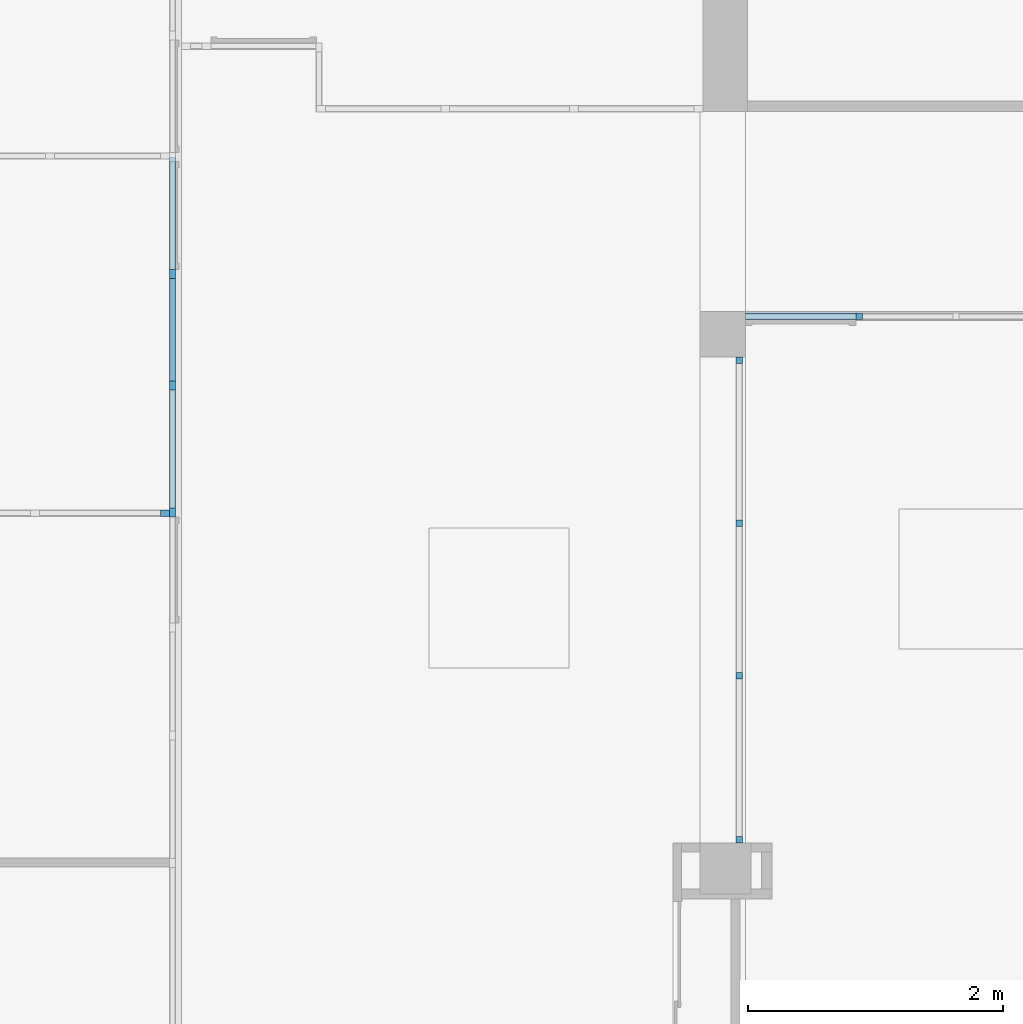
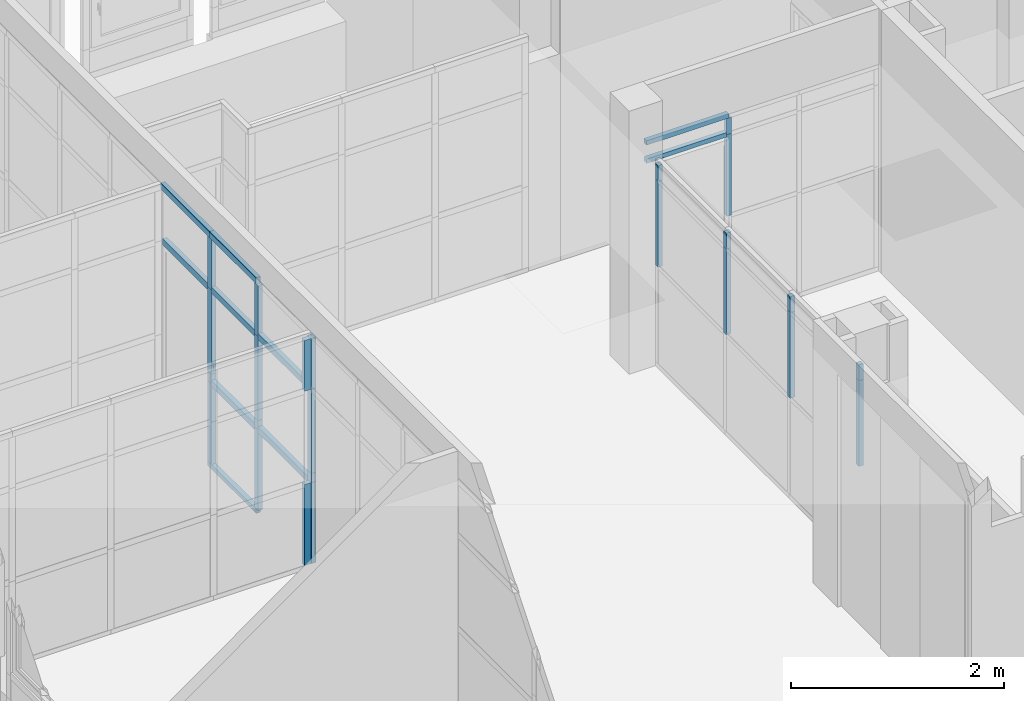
# One storey, part 17 of 97: 34 members, 4 elements without a shape of their own.
"""IFC4 building model written with IfcOpenShell, lengths in metres."""

import ifcopenshell
import ifcopenshell.guid

model = None  # the IFC model being written
_history = None  # IfcOwnerHistory: only IFC2X3 demands one
_inside = {}  # id of a spatial element -> (the spatial element, [elements in it])
_under = {}  # id of a project, library or spatial element -> (it, [spatial elements below it])
_declared = {}  # id of a project -> (the project, [libraries it declares])
_typed = {}  # id of a type object -> (the type object, [elements of that type])
_made_of = {}  # id of a material, layer set ... -> (it, [elements and type objects made of it])


def new_model(schema):
    """Start an empty IFC model of exactly this schema.

    Asked for "IFC4X3", IfcOpenShell would pick the latest addendum, in which some entities
    have other attributes; the version numbers below select the first issue.
    IFC2X3 requires an IfcOwnerHistory on every rooted entity: one is made here for all.
    """
    global model, _history
    if schema == "IFC4X3":
        model = ifcopenshell.file(schema_version=(4, 3, 0, 0))
    else:
        model = ifcopenshell.file(schema=schema)
    _inside.clear()
    _under.clear()
    _declared.clear()
    _typed.clear()
    _made_of.clear()
    _history = None
    if model.schema == "IFC2X3":
        org = make("IfcOrganization", Name="unknown")
        user = make(
            "IfcPersonAndOrganization",
            ThePerson=make("IfcPerson", FamilyName="unknown"),
            TheOrganization=org,
        )
        app = make(
            "IfcApplication",
            ApplicationDeveloper=org,
            Version="unknown",
            ApplicationFullName="unknown",
            ApplicationIdentifier="unknown",
        )
        _history = make(
            "IfcOwnerHistory",
            OwningUser=user,
            OwningApplication=app,
            ChangeAction="ADDED",
            CreationDate=0,
        )
    return model


def make(cls, **values):
    """One entity of the class cls with the attributes given. An attribute that is None is left unset."""
    return model.create_entity(
        cls, **{name: value for name, value in values.items() if value is not None}
    )


def entity(cls, *values):
    """Any entity or typed value of the class cls, its attributes in the order of the schema. None: left unset."""
    e = model.create_entity(cls)
    for i, value in enumerate(values):
        if value is not None:
            e[i] = value
    return e


def rooted(cls, **values):
    """An entity with a GlobalId (a new one), such as an element, a storey or a relation."""
    return make(cls, GlobalId=ifcopenshell.guid.new(), OwnerHistory=_history, **values)


def si_unit(unit_type, name, prefix=None):
    """IfcSIUnit, for example si_unit("LENGTHUNIT", "METRE", prefix="MILLI")."""
    return make("IfcSIUnit", UnitType=unit_type, Prefix=prefix, Name=name)


def converted_unit(unit_type, name, factor, base, dimensions=None, offset=None):
    """IfcConversionBasedUnit, such as the inch: factor (a typed value) times the base unit."""
    return make(
        "IfcConversionBasedUnit"
        if offset is None
        else "IfcConversionBasedUnitWithOffset",
        ConversionOffset=offset,
        Dimensions=None
        if dimensions is None
        else entity("IfcDimensionalExponents", *dimensions),
        UnitType=unit_type,
        Name=name,
        ConversionFactor=make(
            "IfcMeasureWithUnit", ValueComponent=factor, UnitComponent=base
        ),
    )


def derived_unit(unit_type, elements):
    """IfcDerivedUnit: a product of units, each with its exponent."""
    return make(
        "IfcDerivedUnit",
        Elements=[
            make("IfcDerivedUnitElement", Unit=unit, Exponent=power)
            for unit, power in elements
        ],
        UnitType=unit_type,
    )


def assignment(units):
    """IfcUnitAssignment: the units of a project."""
    return None if units is None else make("IfcUnitAssignment", Units=units)


def point(xyz):
    """IfcCartesianPoint."""
    return None if xyz is None else make("IfcCartesianPoint", Coordinates=xyz)


def direction(xyz):
    """IfcDirection."""
    return None if xyz is None else make("IfcDirection", DirectionRatios=xyz)


def frame(location, z_axis=None, x_axis=None):
    """IfcAxis2Placement3D, a coordinate frame: its origin and axes. An axis left out is left unset."""
    return make(
        "IfcAxis2Placement3D",
        Location=point(location),
        Axis=direction(z_axis),
        RefDirection=direction(x_axis),
    )


def origin():
    """The frame at (0, 0, 0) with its axes left unset."""
    return frame((0.0, 0.0, 0.0))


def place(relative_to, where):
    """IfcLocalPlacement: puts the frame where relative to a parent placement (None: the world)."""
    return make(
        "IfcLocalPlacement", PlacementRelTo=relative_to, RelativePlacement=where
    )


def context(
    kind, dimensions, precision=None, world=None, true_north=None, identifier=None
):
    """IfcGeometricRepresentationContext, for example the 3D "Model" context."""
    return make(
        "IfcGeometricRepresentationContext",
        ContextIdentifier=identifier,
        ContextType=kind,
        CoordinateSpaceDimension=dimensions,
        Precision=precision,
        WorldCoordinateSystem=world,
        TrueNorth=true_north,
    )


def subcontext(parent, identifier, kind, view, scale=None):
    """IfcGeometricRepresentationSubContext, for example "Body" below "Model"."""
    return make(
        "IfcGeometricRepresentationSubContext",
        ContextIdentifier=identifier,
        ContextType=kind,
        ParentContext=parent,
        TargetScale=scale,
        TargetView=view,
    )


def project(units=None, contexts=None):
    """IfcProject with its units and contexts."""
    return rooted(
        "IfcProject",
        Name="project",
        RepresentationContexts=contexts,
        UnitsInContext=assignment(units),
    )


def spatial(cls, under=None, at=None, **own):
    """A site, building, storey or space (cls), placed at a placement, below another one or the project."""
    s = rooted(cls, ObjectPlacement=at, **own)
    if under is not None:
        _under.setdefault(under.id(), (under, []))[1].append(s)
    return s


def point_list(points):
    """IfcCartesianPointList2D or 3D."""
    cls = (
        "IfcCartesianPointList2D" if len(points[0]) == 2 else "IfcCartesianPointList3D"
    )
    return make(cls, CoordList=points)


def indexed_curve(points, segments=None, self_intersect=None):
    """IfcIndexedPolyCurve: lines and arcs through numbered points (the first is 1)."""
    return make(
        "IfcIndexedPolyCurve",
        Points=point_list(points),
        Segments=segments,
        SelfIntersect=self_intersect,
    )


def outline(outer, holes=None, kind="AREA"):
    """IfcArbitraryClosedProfileDef: a profile drawn as a closed curve; with holes, ...WithVoids."""
    if holes is None:
        return make("IfcArbitraryClosedProfileDef", ProfileType=kind, OuterCurve=outer)
    return make(
        "IfcArbitraryProfileDefWithVoids",
        ProfileType=kind,
        OuterCurve=outer,
        InnerCurves=holes,
    )


def extrude(swept, where, along, depth):
    """IfcExtrudedAreaSolid: the profile swept, set in the frame where, extruded along a direction by depth."""
    return make(
        "IfcExtrudedAreaSolid",
        SweptArea=swept,
        Position=where,
        ExtrudedDirection=direction(along),
        Depth=depth,
    )


def shape(context_of_items, identifier, shape_type, items):
    """IfcShapeRepresentation: the items that make up one representation, for example the "Body"."""
    return make(
        "IfcShapeRepresentation",
        ContextOfItems=context_of_items,
        RepresentationIdentifier=identifier,
        RepresentationType=shape_type,
        Items=items,
    )


def source(mapping_origin, context_of_items, identifier, shape_type, items):
    """IfcRepresentationMap: a shape defined once, which mapped items show again and again."""
    return make(
        "IfcRepresentationMap",
        MappingOrigin=mapping_origin,
        MappedRepresentation=shape(context_of_items, identifier, shape_type, items),
    )


def transform(
    local_origin,
    x_axis=None,
    y_axis=None,
    z_axis=None,
    scale=None,
    scale2=None,
    scale3=None,
    uniform=True,
):
    """IfcCartesianTransformationOperator3D, or its non-uniform kind. x_axis, y_axis, z_axis: its Axis1, 2, 3."""
    if uniform:
        return make(
            "IfcCartesianTransformationOperator3D",
            Axis1=direction(x_axis),
            Axis2=direction(y_axis),
            LocalOrigin=point(local_origin),
            Scale=scale,
            Axis3=direction(z_axis),
        )
    return make(
        "IfcCartesianTransformationOperator3DnonUniform",
        Axis1=direction(x_axis),
        Axis2=direction(y_axis),
        LocalOrigin=point(local_origin),
        Scale=scale,
        Axis3=direction(z_axis),
        Scale2=scale2,
        Scale3=scale3,
    )


def mapped(mapping_source, mapping_target):
    """IfcMappedItem: shows the shape of a source again, moved by a transform."""
    return make(
        "IfcMappedItem", MappingSource=mapping_source, MappingTarget=mapping_target
    )


def material(Name=None, Category=None):
    """IfcMaterial."""
    return make("IfcMaterial", Name=Name, Category=Category)


def made_of(thing, what):
    """Note that an element or type object is made of a material, layer set ...; save() writes the relation."""
    if what is not None:
        _made_of.setdefault(what.id(), (what, []))[1].append(thing)
    return thing


def type_object(cls, material=None, **own):
    """A type object (cls), such as IfcWallType, which elements share."""
    return made_of(rooted(cls, **own), material)


def type_shapes(of_type, sources):
    """Give a type object the sources (RepresentationMaps) that its elements show as mapped items."""
    of_type.RepresentationMaps = sources


def element(
    cls,
    number,
    at=None,
    inside=None,
    cuts=None,
    type_object=None,
    material=None,
    context=None,
    identifier="Body",
    shape_type=None,
    held_by="IfcProductDefinitionShape",
    body=None,
    shapes=None,
    **own,
):
    """One element of the class cls, such as IfcWall. Its Tag is "e" and its number.

    at: its placement. inside: the storey or other place that contains it. cuts: it is an
    opening in that element (IfcRelVoidsElement). A single representation is given by context,
    identifier, shape_type and body (its items); several are given by shapes. held_by: the class
    of the entity that holds the representations. save() writes the other relations.
    """
    e = rooted(cls, Tag="e%d" % number, ObjectPlacement=at, **own)
    if body is not None:
        shapes = [shape(context, identifier, shape_type, body)]
    if shapes is not None:
        e.Representation = make(held_by, Representations=shapes)
    if inside is not None:
        _inside.setdefault(inside.id(), (inside, []))[1].append(e)
    if cuts is not None:
        rooted(
            "IfcRelVoidsElement", RelatingBuildingElement=cuts, RelatedOpeningElement=e
        )
    if type_object is not None:
        _typed.setdefault(type_object.id(), (type_object, []))[1].append(e)
    return made_of(e, material)


def aggregate(whole, parts):
    """IfcRelAggregates: a whole, such as a stair, and the parts it consists of."""
    return rooted("IfcRelAggregates", RelatingObject=whole, RelatedObjects=parts)


def save(model, path):
    """Write the relations noted so far, then the file.

    IfcRelAggregates (storeys below a building ...), IfcRelContainedInSpatialStructure (elements
    in a storey), IfcRelDefinesByType, IfcRelAssociatesMaterial and IfcRelDeclares: one each for
    every whole, place, type object, material and project.
    """
    for whole, parts in _under.values():
        aggregate(whole, parts)
    for where, things in _inside.values():
        rooted(
            "IfcRelContainedInSpatialStructure",
            RelatedElements=things,
            RelatingStructure=where,
        )
    for kind, things in _typed.values():
        rooted("IfcRelDefinesByType", RelatedObjects=things, RelatingType=kind)
    for what, things in _made_of.values():
        rooted("IfcRelAssociatesMaterial", RelatedObjects=things, RelatingMaterial=what)
    for by, libraries in _declared.values():
        rooted("IfcRelDeclares", RelatingContext=by, RelatedDefinitions=libraries)
    model.write(path)


model = new_model("IFC4")

# Units and contexts
model_context = context("Model", 3, precision=1e-05, world=origin(), true_north=direction((6.12303176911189e-17, 1.0)))
body_context = subcontext(model_context, "Body", "Model", "MODEL_VIEW")
ifc_project = project(units=[si_unit("LENGTHUNIT", "METRE"), si_unit("AREAUNIT", "SQUARE_METRE"), si_unit("VOLUMEUNIT", "CUBIC_METRE"), converted_unit("PLANEANGLEUNIT", "DEGREE", entity("IfcRatioMeasure", 0.0174532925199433), si_unit("PLANEANGLEUNIT", "RADIAN"), dimensions=[0, 0, 0, 0, 0, 0, 0]), si_unit("MASSUNIT", "GRAM", prefix="KILO"), derived_unit("MASSDENSITYUNIT", [(si_unit("MASSUNIT", "GRAM", prefix="KILO"), 1), (si_unit("LENGTHUNIT", "METRE"), -3)]), derived_unit("MOMENTOFINERTIAUNIT", [(si_unit("LENGTHUNIT", "METRE"), 4)]), si_unit("TIMEUNIT", "SECOND"), si_unit("FREQUENCYUNIT", "HERTZ"), si_unit("THERMODYNAMICTEMPERATUREUNIT", "DEGREE_CELSIUS"), derived_unit("THERMALTRANSMITTANCEUNIT", [(si_unit("MASSUNIT", "GRAM", prefix="KILO"), 1), (si_unit("THERMODYNAMICTEMPERATUREUNIT", "KELVIN"), -1), (si_unit("TIMEUNIT", "SECOND"), -3)]), derived_unit("VOLUMETRICFLOWRATEUNIT", [(si_unit("LENGTHUNIT", "METRE"), 3), (si_unit("TIMEUNIT", "SECOND"), -1)]), si_unit("ELECTRICCURRENTUNIT", "AMPERE"), si_unit("ELECTRICVOLTAGEUNIT", "VOLT"), si_unit("POWERUNIT", "WATT"), si_unit("FORCEUNIT", "NEWTON", prefix="KILO"), si_unit("ILLUMINANCEUNIT", "LUX"), si_unit("LUMINOUSFLUXUNIT", "LUMEN"), si_unit("LUMINOUSINTENSITYUNIT", "CANDELA"), derived_unit("USERDEFINED", [(si_unit("MASSUNIT", "GRAM", prefix="KILO"), -1), (si_unit("LENGTHUNIT", "METRE"), -2), (si_unit("TIMEUNIT", "SECOND"), 3), (si_unit("LUMINOUSFLUXUNIT", "LUMEN"), 1)]), derived_unit("LINEARVELOCITYUNIT", [(si_unit("LENGTHUNIT", "METRE"), 1), (si_unit("TIMEUNIT", "SECOND"), -1)]), si_unit("PRESSUREUNIT", "PASCAL"), derived_unit("USERDEFINED", [(si_unit("LENGTHUNIT", "METRE"), -2), (si_unit("MASSUNIT", "GRAM", prefix="KILO"), 1), (si_unit("TIMEUNIT", "SECOND"), -2)]), derived_unit("LINEARFORCEUNIT", [(si_unit("MASSUNIT", "GRAM", prefix="KILO"), 1), (si_unit("LENGTHUNIT", "METRE"), 1), (si_unit("TIMEUNIT", "SECOND"), -2), (si_unit("LENGTHUNIT", "METRE"), -1)]), derived_unit("PLANARFORCEUNIT", [(si_unit("MASSUNIT", "GRAM", prefix="KILO"), 1), (si_unit("LENGTHUNIT", "METRE"), 1), (si_unit("TIMEUNIT", "SECOND"), -2), (si_unit("LENGTHUNIT", "METRE"), -2)])], contexts=[model_context])

# Site, building, storey
site_placement = place(None, origin())
site = spatial("IfcSite", under=ifc_project, at=site_placement, Name="Default", CompositionType="ELEMENT")
building_placement = place(site_placement, origin())
building = spatial("IfcBuilding", under=site, at=building_placement, Name="HOTEL CONSULAIRE BOULOGNE SUR MER", CompositionType="ELEMENT")
storey_placement = place(building_placement, frame((0.0, 0.0, 3.62152697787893)))
storey = spatial("IfcBuildingStorey", under=building, at=storey_placement, Name="Niveau 1", CompositionType="ELEMENT", Elevation=3.62152697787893)

# Curtain wall, member
curtain_wall_type = type_object("IfcCurtainWallType", Name="Mur-rideau:Simple panneau", PredefinedType="NOTDEFINED")
curtain_wall_1_placement = place(storey_placement, frame((0.0, 0.0, -3.62152697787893)))
curtain_wall_1 = element("IfcCurtainWall", 1, at=curtain_wall_1_placement, inside=storey, type_object=curtain_wall_type, Name="Mur-rideau:Simple panneau", ObjectType="Mur-rideau:Simple panneau", PredefinedType="NOTDEFINED")
ifc_material_1 = material(Name="PVC, souple", Category="Plastique")
member_type_1 = type_object("IfcMemberType", Name="Meneau rectangulaire:50 x 35 pvc gris", PredefinedType="MULLION", material=ifc_material_1)
shared_shape_1 = source(origin(), body_context, "Body", "SweptSolid", [
    extrude(outline(indexed_curve([(-0.025, -0.035), (0.025, -0.035), (0.025, 0.035), (-0.025, 0.035), (-0.025, -0.035)], self_intersect=False)), frame((-0.035, -0.025, -0.581), z_axis=(0.0, 0.0, 1.0), x_axis=(0.0, -1.0, 0.0)), (0.0, 0.0, 1.0), 0.581),
])
type_shapes(member_type_1, [shared_shape_1])
member_1_placement = place(storey_placement, frame((-9.69962464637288, -17.0018458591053, 2.62696046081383)))
member_1 = element("IfcMember", 2, at=member_1_placement, type_object=member_type_1, material=ifc_material_1, Name="Meneau rectangulaire:50 x 35 pvc gris", ObjectType="Meneau rectangulaire:50 x 35 pvc gris", PredefinedType="MULLION", context=body_context, shape_type="MappedRepresentation", body=[
    mapped(shared_shape_1, transform((0.0, 0.0, 0.0), scale=1.0)),
])

# Curtain wall, members
curtain_wall_2_placement = place(storey_placement, frame((0.0, 0.0, -3.62152697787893)))
curtain_wall_2 = element("IfcCurtainWall", 3, at=curtain_wall_2_placement, inside=storey, type_object=curtain_wall_type, Name="Mur-rideau:Simple panneau", ObjectType="Mur-rideau:Simple panneau", PredefinedType="NOTDEFINED")
member_type_2 = type_object("IfcMemberType", Name="Meneau rectangulaire:50 x 35 pvc gris", PredefinedType="MULLION", material=ifc_material_1)
shared_shape_2 = source(origin(), body_context, "Body", "SweptSolid", [
    extrude(outline(indexed_curve([(-0.025, -0.035), (0.025, -0.035), (0.025, 0.035), (-0.025, 0.035), (-0.025, -0.035)], self_intersect=False)), frame((0.0, -0.025, -0.581), z_axis=(0.0, 0.0, 1.0), x_axis=(0.0, -1.0, 0.0)), (0.0, 0.0, 1.0), 0.581),
])
type_shapes(member_type_2, [shared_shape_2])
member_2_placement = place(storey_placement, frame((-9.64962464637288, -17.0222596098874, 2.04596046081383), z_axis=(0.0, 0.0, -1.0), x_axis=(0.0, 1.0, 0.0)))
member_2 = element("IfcMember", 4, at=member_2_placement, type_object=member_type_2, material=ifc_material_1, Name="Meneau rectangulaire:50 x 35 pvc gris", ObjectType="Meneau rectangulaire:50 x 35 pvc gris", PredefinedType="MULLION", context=body_context, shape_type="MappedRepresentation", body=[
    mapped(shared_shape_2, transform((0.0, 0.0, 0.0), scale=1.0)),
])
member_3_placement = place(storey_placement, frame((-9.64962464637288, -16.0232596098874, 2.04596046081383), z_axis=(0.0, 0.0, -1.0), x_axis=(0.0, 1.0, 0.0)))
member_3 = element("IfcMember", 5, at=member_3_placement, type_object=member_type_2, material=ifc_material_1, Name="Meneau rectangulaire:50 x 35 pvc gris", ObjectType="Meneau rectangulaire:50 x 35 pvc gris", PredefinedType="MULLION", context=body_context, shape_type="MappedRepresentation", body=[
    mapped(shared_shape_2, transform((0.0, 0.0, 0.0), scale=1.0)),
])
member_4_placement = place(storey_placement, frame((-9.64962464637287, -15.1482596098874, 2.04596046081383), z_axis=(0.0, 0.0, -1.0), x_axis=(0.0, 1.0, 0.0)))
member_4 = element("IfcMember", 6, at=member_4_placement, type_object=member_type_2, material=ifc_material_1, Name="Meneau rectangulaire:50 x 35 pvc gris", ObjectType="Meneau rectangulaire:50 x 35 pvc gris", PredefinedType="MULLION", context=body_context, shape_type="MappedRepresentation", body=[
    mapped(shared_shape_2, transform((0.0, 0.0, 0.0), scale=1.0)),
])
member_type_3 = type_object("IfcMemberType", Name="Meneau rectangulaire:50 x 35 pvc gris", PredefinedType="MULLION", material=ifc_material_1)
shared_shape_3 = source(origin(), body_context, "Body", "SweptSolid", [
    extrude(outline(indexed_curve([(-0.025, -0.035), (0.025, -0.035), (0.025, 0.035), (-0.025, 0.035), (-0.025, -0.035)], self_intersect=False)), frame((0.0, -0.025, -0.926960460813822), z_axis=(0.0, 0.0, 1.0), x_axis=(0.0, -1.0, 0.0)), (0.0, 0.0, 1.0), 0.926960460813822),
])
type_shapes(member_type_3, [shared_shape_3])
member_5_placement = place(storey_placement, frame((-9.64962464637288, -17.0222596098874, 0.050000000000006), z_axis=(0.0, 0.0, -1.0), x_axis=(0.0, 1.0, 0.0)))
member_5 = element("IfcMember", 7, at=member_5_placement, type_object=member_type_3, material=ifc_material_1, Name="Meneau rectangulaire:50 x 35 pvc gris", ObjectType="Meneau rectangulaire:50 x 35 pvc gris", PredefinedType="MULLION", context=body_context, shape_type="MappedRepresentation", body=[
    mapped(shared_shape_3, transform((0.0, 0.0, 0.0), scale=1.0)),
])
member_6_placement = place(storey_placement, frame((-9.64962464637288, -16.0232596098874, 0.050000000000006), z_axis=(0.0, 0.0, -1.0), x_axis=(0.0, 1.0, 0.0)))
member_6 = element("IfcMember", 8, at=member_6_placement, type_object=member_type_3, material=ifc_material_1, Name="Meneau rectangulaire:50 x 35 pvc gris", ObjectType="Meneau rectangulaire:50 x 35 pvc gris", PredefinedType="MULLION", context=body_context, shape_type="MappedRepresentation", body=[
    mapped(shared_shape_3, transform((0.0, 0.0, 0.0), scale=1.0)),
])
member_7_placement = place(storey_placement, frame((-9.64962464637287, -15.1482596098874, 0.050000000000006), z_axis=(0.0, 0.0, -1.0), x_axis=(0.0, 1.0, 0.0)))
member_7 = element("IfcMember", 9, at=member_7_placement, type_object=member_type_3, material=ifc_material_1, Name="Meneau rectangulaire:50 x 35 pvc gris", ObjectType="Meneau rectangulaire:50 x 35 pvc gris", PredefinedType="MULLION", context=body_context, shape_type="MappedRepresentation", body=[
    mapped(shared_shape_3, transform((0.0, 0.0, 0.0), scale=1.0)),
])
member_type_4 = type_object("IfcMemberType", Name="Meneau rectangulaire:50 x 35 pvc gris", PredefinedType="MULLION", material=ifc_material_1)
shared_shape_4 = source(origin(), body_context, "Body", "SweptSolid", [
    extrude(outline(indexed_curve([(-0.025, -0.035), (0.025, -0.035), (0.025, 0.035), (-0.025, 0.035), (-0.025, -0.035)], self_intersect=False)), frame((0.0, -0.025, -0.805), z_axis=(0.0, 0.0, 1.0), x_axis=(0.0, -1.0, 0.0)), (0.0, 0.0, 1.0), 0.805000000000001),
])
type_shapes(member_type_4, [shared_shape_4])
member_8_placement = place(storey_placement, frame((-9.64962464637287, -15.1832596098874, 0.976960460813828), z_axis=(0.0, 1.0, 0.0), x_axis=(0.0, 0.0, 1.0)))
member_8 = element("IfcMember", 10, at=member_8_placement, type_object=member_type_4, material=ifc_material_1, Name="Meneau rectangulaire:50 x 35 pvc gris", ObjectType="Meneau rectangulaire:50 x 35 pvc gris", PredefinedType="MULLION", context=body_context, shape_type="MappedRepresentation", body=[
    mapped(shared_shape_4, transform((0.0, 0.0, 0.0), scale=1.0)),
])
member_9_placement = place(storey_placement, frame((-9.64962464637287, -15.1832596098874, 2.04596046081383), z_axis=(0.0, 1.0, 0.0), x_axis=(0.0, 0.0, 1.0)))
member_9 = element("IfcMember", 11, at=member_9_placement, type_object=member_type_4, material=ifc_material_1, Name="Meneau rectangulaire:50 x 35 pvc gris", ObjectType="Meneau rectangulaire:50 x 35 pvc gris", PredefinedType="MULLION", context=body_context, shape_type="MappedRepresentation", body=[
    mapped(shared_shape_4, transform((0.0, 0.0, 0.0), scale=1.0)),
])
member_type_5 = type_object("IfcMemberType", Name="Meneau rectangulaire:50 x 35 pvc gris", PredefinedType="MULLION", material=ifc_material_1)
shared_shape_5 = source(origin(), body_context, "Body", "SweptSolid", [
    extrude(outline(indexed_curve([(-0.025, -0.035), (0.025, -0.035), (0.025, 0.035), (-0.025, 0.035), (-0.025, -0.035)], self_intersect=False)), frame((0.0, -0.025, -0.929), z_axis=(0.0, 0.0, 1.0), x_axis=(0.0, -1.0, 0.0)), (0.0, 0.0, 1.0), 0.929),
])
type_shapes(member_type_5, [shared_shape_5])
member_10_placement = place(storey_placement, frame((-9.64962464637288, -16.0582596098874, 0.976960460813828), z_axis=(0.0, 1.0, 0.0), x_axis=(0.0, 0.0, 1.0)))
member_10 = element("IfcMember", 12, at=member_10_placement, type_object=member_type_5, material=ifc_material_1, Name="Meneau rectangulaire:50 x 35 pvc gris", ObjectType="Meneau rectangulaire:50 x 35 pvc gris", PredefinedType="MULLION", context=body_context, shape_type="MappedRepresentation", body=[
    mapped(shared_shape_5, transform((0.0, 0.0, 0.0), scale=1.0)),
])
member_11_placement = place(storey_placement, frame((-9.64962464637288, -16.0582596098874, 2.04596046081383), z_axis=(0.0, 1.0, 0.0), x_axis=(0.0, 0.0, 1.0)))
member_11 = element("IfcMember", 13, at=member_11_placement, type_object=member_type_5, material=ifc_material_1, Name="Meneau rectangulaire:50 x 35 pvc gris", ObjectType="Meneau rectangulaire:50 x 35 pvc gris", PredefinedType="MULLION", context=body_context, shape_type="MappedRepresentation", body=[
    mapped(shared_shape_5, transform((0.0, 0.0, 0.0), scale=1.0)),
])
member_type_6 = type_object("IfcMemberType", Name="Meneau rectangulaire:50 x 35 pvc gris", PredefinedType="MULLION", material=ifc_material_1)
shared_shape_6 = source(origin(), body_context, "Body", "SweptSolid", [
    extrude(outline(indexed_curve([(-0.025, -0.035), (0.025, -0.035), (0.025, 0.035), (-0.025, 0.035), (-0.025, -0.035)], self_intersect=False)), frame((0.0, -0.025, -0.846999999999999), z_axis=(0.0, 0.0, 1.0), x_axis=(0.0, -1.0, 0.0)), (0.0, 0.0, 1.0), 0.847),
])
type_shapes(member_type_6, [shared_shape_6])
member_12_placement = place(storey_placement, frame((-9.64962464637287, -14.2662596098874, 2.04596046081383), z_axis=(0.0, 1.0, 0.0), x_axis=(0.0, 0.0, 1.0)))
member_12 = element("IfcMember", 14, at=member_12_placement, type_object=member_type_6, material=ifc_material_1, Name="Meneau rectangulaire:50 x 35 pvc gris", ObjectType="Meneau rectangulaire:50 x 35 pvc gris", PredefinedType="MULLION", context=body_context, shape_type="MappedRepresentation", body=[
    mapped(shared_shape_6, transform((0.0, 0.0, 0.0), scale=1.0)),
])
member_type_7 = type_object("IfcMemberType", Name="Meneau rectangulaire:50 x 35 pvc gris", PredefinedType="MULLION", material=ifc_material_1)
shared_shape_7 = source(origin(), body_context, "Body", "SweptSolid", [
    extrude(outline(indexed_curve([(-0.025, -0.035), (0.025, -0.035), (0.025, 0.035), (-0.025, 0.035), (-0.025, -0.035)], self_intersect=False)), frame((0.0, -0.025, -0.105), z_axis=(0.0, 0.0, 1.0), x_axis=(0.0, -1.0, 0.0)), (0.0, 0.0, 1.0), 0.105),
])
type_shapes(member_type_7, [shared_shape_7])
member_13_placement = place(storey_placement, frame((-9.64962464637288, -17.0222596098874, 0.976960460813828), z_axis=(0.0, 0.0, -1.0), x_axis=(0.0, 1.0, 0.0)))
member_13 = element("IfcMember", 15, at=member_13_placement, type_object=member_type_7, material=ifc_material_1, Name="Meneau rectangulaire:50 x 35 pvc gris", ObjectType="Meneau rectangulaire:50 x 35 pvc gris", PredefinedType="MULLION", context=body_context, shape_type="MappedRepresentation", body=[
    mapped(shared_shape_7, transform((0.0, 0.0, 0.0), scale=1.0)),
])
member_14_placement = place(storey_placement, frame((-9.64962464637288, -16.0232596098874, 0.976960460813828), z_axis=(0.0, 0.0, -1.0), x_axis=(0.0, 1.0, 0.0)))
member_14 = element("IfcMember", 16, at=member_14_placement, type_object=member_type_7, material=ifc_material_1, Name="Meneau rectangulaire:50 x 35 pvc gris", ObjectType="Meneau rectangulaire:50 x 35 pvc gris", PredefinedType="MULLION", context=body_context, shape_type="MappedRepresentation", body=[
    mapped(shared_shape_7, transform((0.0, 0.0, 0.0), scale=1.0)),
])
member_15_placement = place(storey_placement, frame((-9.64962464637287, -15.1482596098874, 0.976960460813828), z_axis=(0.0, 0.0, -1.0), x_axis=(0.0, 1.0, 0.0)))
member_15 = element("IfcMember", 17, at=member_15_placement, type_object=member_type_7, material=ifc_material_1, Name="Meneau rectangulaire:50 x 35 pvc gris", ObjectType="Meneau rectangulaire:50 x 35 pvc gris", PredefinedType="MULLION", context=body_context, shape_type="MappedRepresentation", body=[
    mapped(shared_shape_7, transform((0.0, 0.0, 0.0), scale=1.0)),
])
member_type_8 = type_object("IfcMemberType", Name="Meneau rectangulaire:50 x 35 pvc gris", PredefinedType="MULLION", material=ifc_material_1)
shared_shape_8 = source(origin(), body_context, "Body", "SweptSolid", [
    extrude(outline(indexed_curve([(-0.025, -0.035), (0.025, -0.035), (0.025, 0.035), (-0.025, 0.035), (-0.025, -0.035)], self_intersect=False)), frame((0.0, -0.025, -0.964), z_axis=(0.0, 0.0, 1.0), x_axis=(0.0, -1.0, 0.0)), (0.0, 0.0, 1.0), 0.964),
])
type_shapes(member_type_8, [shared_shape_8])
member_16_placement = place(storey_placement, frame((-9.64962464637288, -17.0222596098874, 1.08196046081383), z_axis=(0.0, 0.0, -1.0), x_axis=(0.0, 1.0, 0.0)))
member_16 = element("IfcMember", 18, at=member_16_placement, type_object=member_type_8, material=ifc_material_1, Name="Meneau rectangulaire:50 x 35 pvc gris", ObjectType="Meneau rectangulaire:50 x 35 pvc gris", PredefinedType="MULLION", context=body_context, shape_type="MappedRepresentation", body=[
    mapped(shared_shape_8, transform((0.0, 0.0, 0.0), scale=1.0)),
])
member_17_placement = place(storey_placement, frame((-9.64962464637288, -16.0232596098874, 1.08196046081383), z_axis=(0.0, 0.0, -1.0), x_axis=(0.0, 1.0, 0.0)))
member_17 = element("IfcMember", 19, at=member_17_placement, type_object=member_type_8, material=ifc_material_1, Name="Meneau rectangulaire:50 x 35 pvc gris", ObjectType="Meneau rectangulaire:50 x 35 pvc gris", PredefinedType="MULLION", context=body_context, shape_type="MappedRepresentation", body=[
    mapped(shared_shape_8, transform((0.0, 0.0, 0.0), scale=1.0)),
])
member_18_placement = place(storey_placement, frame((-9.64962464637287, -15.1482596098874, 1.08196046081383), z_axis=(0.0, 0.0, -1.0), x_axis=(0.0, 1.0, 0.0)))
member_18 = element("IfcMember", 20, at=member_18_placement, type_object=member_type_8, material=ifc_material_1, Name="Meneau rectangulaire:50 x 35 pvc gris", ObjectType="Meneau rectangulaire:50 x 35 pvc gris", PredefinedType="MULLION", context=body_context, shape_type="MappedRepresentation", body=[
    mapped(shared_shape_8, transform((0.0, 0.0, 0.0), scale=1.0)),
])
member_type_9 = type_object("IfcMemberType", Name="Meneau rectangulaire:50 x 35 pvc gris", PredefinedType="MULLION", material=ifc_material_1)
shared_shape_9 = source(origin(), body_context, "Body", "SweptSolid", [
    extrude(outline(indexed_curve([(-0.025, -0.035), (0.025, -0.035), (0.025, 0.035), (-0.025, 0.035), (-0.025, -0.035)], self_intersect=False)), frame((-0.035, -0.025, -0.916999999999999), z_axis=(0.0, 0.0, 1.0), x_axis=(0.0, -1.0, 0.0)), (0.0, 0.0, 1.0), 0.916999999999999),
])
type_shapes(member_type_9, [shared_shape_9])
member_19_placement = place(storey_placement, frame((-9.64962464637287, -14.2312596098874, 2.69696046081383), z_axis=(0.0, 1.0, 0.0), x_axis=(0.0, 0.0, 1.0)))
member_19 = element("IfcMember", 21, at=member_19_placement, type_object=member_type_9, material=ifc_material_1, Name="Meneau rectangulaire:50 x 35 pvc gris", ObjectType="Meneau rectangulaire:50 x 35 pvc gris", PredefinedType="MULLION", context=body_context, shape_type="MappedRepresentation", body=[
    mapped(shared_shape_9, transform((0.0, 0.0, 0.0), scale=1.0)),
])
member_type_10 = type_object("IfcMemberType", Name="Meneau rectangulaire:50 x 35 pvc gris", PredefinedType="MULLION", material=ifc_material_1)
shared_shape_10 = source(origin(), body_context, "Body", "SweptSolid", [
    extrude(outline(indexed_curve([(-0.025, -0.035), (0.025, -0.035), (0.025, 0.035), (-0.025, 0.035), (-0.025, -0.035)], self_intersect=False)), frame((-0.035, -0.025, -0.875), z_axis=(0.0, 0.0, 1.0), x_axis=(0.0, -1.0, 0.0)), (0.0, 0.0, 1.0), 0.875),
])
type_shapes(member_type_10, [shared_shape_10])
member_20_placement = place(storey_placement, frame((-9.64962464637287, -15.1482596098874, 2.69696046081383), z_axis=(0.0, 1.0, 0.0), x_axis=(0.0, 0.0, 1.0)))
member_20 = element("IfcMember", 22, at=member_20_placement, type_object=member_type_10, material=ifc_material_1, Name="Meneau rectangulaire:50 x 35 pvc gris", ObjectType="Meneau rectangulaire:50 x 35 pvc gris", PredefinedType="MULLION", context=body_context, shape_type="MappedRepresentation", body=[
    mapped(shared_shape_10, transform((0.0, 0.0, 0.0), scale=1.0)),
])
member_type_11 = type_object("IfcMemberType", Name="Meneau rectangulaire:50 x 25mm pvc gris", PredefinedType="MULLION", material=ifc_material_1)
shared_shape_11 = source(origin(), body_context, "Body", "SweptSolid", [
    extrude(outline(indexed_curve([(-0.025, -0.025), (0.025, -0.025), (0.025, 0.025), (-0.025, 0.025), (-0.025, -0.025)], self_intersect=False)), frame((-0.025, -0.025, -0.91), z_axis=(0.0, 0.0, 1.0), x_axis=(0.0, -1.0, 0.0)), (0.0, 0.0, 1.0), 0.91),
])
type_shapes(member_type_11, [shared_shape_11])
member_21_placement = place(storey_placement, frame((-9.64962464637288, -16.0232596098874, 0.0), z_axis=(0.0, -1.0, 0.0), x_axis=(0.0, 0.0, -1.0)))
member_21 = element("IfcMember", 23, at=member_21_placement, type_object=member_type_11, material=ifc_material_1, Name="Meneau rectangulaire:50 x 25mm pvc gris", ObjectType="Meneau rectangulaire:50 x 25mm pvc gris", PredefinedType="MULLION", context=body_context, shape_type="MappedRepresentation", body=[
    mapped(shared_shape_11, transform((0.0, 0.0, 0.0), scale=1.0)),
])
aggregate(curtain_wall_2, [member_8, member_10, member_12, member_9, member_11, member_13, member_16, member_2, member_5, member_14, member_17, member_3, member_6, member_15, member_18, member_4, member_7, member_19, member_20, member_21])

# Member
member_type_12 = type_object("IfcMemberType", Name="Meneau rectangulaire:50 x 35 pvc gris", PredefinedType="MULLION", material=ifc_material_1)
shared_shape_12 = source(origin(), body_context, "Body", "SweptSolid", [
    extrude(outline(indexed_curve([(-0.025, -0.035), (0.025, -0.035), (0.025, 0.035), (-0.025, 0.035), (-0.025, -0.035)], self_intersect=False)), frame((-0.035, -0.025, -0.927), z_axis=(0.0, 0.0, 1.0), x_axis=(0.0, -1.0, 0.0)), (0.0, 0.0, 1.0), 0.927),
])
type_shapes(member_type_12, [shared_shape_12])
member_22_placement = place(storey_placement, frame((-9.69962464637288, -17.0018458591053, 0.977000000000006)))
member_22 = element("IfcMember", 24, at=member_22_placement, type_object=member_type_12, material=ifc_material_1, Name="Meneau rectangulaire:50 x 35 pvc gris", ObjectType="Meneau rectangulaire:50 x 35 pvc gris", PredefinedType="MULLION", context=body_context, shape_type="MappedRepresentation", body=[
    mapped(shared_shape_12, transform((0.0, 0.0, 0.0), scale=1.0)),
])

aggregate(curtain_wall_1, [member_22, member_1])

# Curtain wall, members
curtain_wall_3_placement = place(storey_placement, frame((0.0, 0.0, -3.62152697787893)))
curtain_wall_3 = element("IfcCurtainWall", 25, at=curtain_wall_3_placement, inside=storey, type_object=curtain_wall_type, Name="Mur-rideau:Simple panneau", ObjectType="Mur-rideau:Simple panneau", PredefinedType="NOTDEFINED")
ifc_material_2 = material(Name="PVC - Blanc", Category="Plastique")
member_type_13 = type_object("IfcMemberType", Name="Meneau rectangulaire:50 x 25mm", PredefinedType="MULLION", material=ifc_material_2)
shared_shape_13 = source(origin(), body_context, "Body", "SweptSolid", [
    extrude(outline(indexed_curve([(-0.025, -0.025), (0.025, -0.025), (0.025, 0.025), (-0.025, 0.025), (-0.025, -0.025)], self_intersect=False)), frame((-0.025, -0.025, -0.180514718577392), z_axis=(0.0, 0.0, 1.0), x_axis=(0.0, -1.0, 0.0)), (0.0, 0.0, 1.0), 0.180514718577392),
])
type_shapes(member_type_13, [shared_shape_13])
member_23_placement = place(storey_placement, frame((-5.19852868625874, -19.6170276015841, 2.32021454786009), z_axis=(0.0, 0.0, 1.0), x_axis=(0.0, -1.0, 0.0)))
member_23 = element("IfcMember", 26, at=member_23_placement, type_object=member_type_13, material=ifc_material_2, Name="Meneau rectangulaire:50 x 25mm", ObjectType="Meneau rectangulaire:50 x 25mm", PredefinedType="MULLION", context=body_context, shape_type="MappedRepresentation", body=[
    mapped(shared_shape_13, transform((0.0, 0.0, 0.0), scale=1.0)),
])
member_type_14 = type_object("IfcMemberType", Name="Meneau rectangulaire:50 x 25mm", PredefinedType="MULLION", material=ifc_material_2)
shared_shape_14 = source(origin(), body_context, "Body", "SweptSolid", [
    extrude(outline(indexed_curve([(-0.025, -0.025), (0.025, -0.025), (0.025, 0.025), (-0.025, 0.025), (-0.025, -0.025)], self_intersect=False)), frame((-0.025, -0.025, -0.983699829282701), z_axis=(0.0, 0.0, 1.0), x_axis=(0.0, -1.0, 0.0)), (0.0, 0.0, 1.0), 0.983699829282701),
])
type_shapes(member_type_14, [shared_shape_14])
member_24_placement = place(storey_placement, frame((-5.19852868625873, -15.8028590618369, 1.156), z_axis=(0.0, 0.0, -1.0), x_axis=(0.0, 1.0, 0.0)))
member_24 = element("IfcMember", 27, at=member_24_placement, type_object=member_type_14, material=ifc_material_2, Name="Meneau rectangulaire:50 x 25mm", ObjectType="Meneau rectangulaire:50 x 25mm", PredefinedType="MULLION", context=body_context, shape_type="MappedRepresentation", body=[
    mapped(shared_shape_14, transform((0.0, 0.0, 0.0), scale=1.0)),
])
member_type_15 = type_object("IfcMemberType", Name="Meneau rectangulaire:50 x 25mm", PredefinedType="MULLION", material=ifc_material_2)
shared_shape_15 = source(origin(), body_context, "Body", "SweptSolid", [
    extrude(outline(indexed_curve([(-0.025, -0.025), (0.025, -0.025), (0.025, 0.025), (-0.025, 0.025), (-0.025, -0.025)], self_intersect=False)), frame((-0.025, -0.025, -0.180514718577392), z_axis=(0.0, 0.0, 1.0), x_axis=(0.0, -1.0, 0.0)), (0.0, 0.0, 1.0), 0.180514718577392),
])
type_shapes(member_type_15, [shared_shape_15])
member_25_placement = place(storey_placement, frame((-5.19852868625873, -15.8028590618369, 2.1396998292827), z_axis=(0.0, 0.0, -1.0), x_axis=(0.0, 1.0, 0.0)))
member_25 = element("IfcMember", 28, at=member_25_placement, type_object=member_type_15, material=ifc_material_2, Name="Meneau rectangulaire:50 x 25mm", ObjectType="Meneau rectangulaire:50 x 25mm", PredefinedType="MULLION", context=body_context, shape_type="MappedRepresentation", body=[
    mapped(shared_shape_15, transform((0.0, 0.0, 0.0), scale=1.0)),
])
member_type_16 = type_object("IfcMemberType", Name="Meneau rectangulaire:50 x 25mm", PredefinedType="MULLION", material=ifc_material_2)
shared_shape_16 = source(origin(), body_context, "Body", "SweptSolid", [
    extrude(outline(indexed_curve([(-0.025, -0.025), (0.025, -0.025), (0.025, 0.025), (-0.025, 0.025), (-0.025, -0.025)], self_intersect=False)), frame((-0.025, -0.025, -0.9836998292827), z_axis=(0.0, 0.0, 1.0), x_axis=(0.0, -1.0, 0.0)), (0.0, 0.0, 1.0), 0.9836998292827),
])
type_shapes(member_type_16, [shared_shape_16])
member_26_placement = place(storey_placement, frame((-5.19852868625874, -19.6170276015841, 2.1396998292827), z_axis=(0.0, 0.0, 1.0), x_axis=(0.0, -1.0, 0.0)))
member_26 = element("IfcMember", 29, at=member_26_placement, type_object=member_type_16, material=ifc_material_2, Name="Meneau rectangulaire:50 x 25mm", ObjectType="Meneau rectangulaire:50 x 25mm", PredefinedType="MULLION", context=body_context, shape_type="MappedRepresentation", body=[
    mapped(shared_shape_16, transform((0.0, 0.0, 0.0), scale=1.0)),
])
member_type_17 = type_object("IfcMemberType", Name="Meneau rectangulaire:50 x 25mm", PredefinedType="MULLION", material=ifc_material_2)
shared_shape_17 = source(origin(), body_context, "Body", "SweptSolid", [
    extrude(outline(indexed_curve([(-0.025, -0.025), (0.025, -0.025), (0.025, 0.025), (-0.025, 0.025), (-0.025, -0.025)], self_intersect=False)), frame((0.0, -0.025, -0.983699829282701), z_axis=(0.0, 0.0, 1.0), x_axis=(0.0, -1.0, 0.0)), (0.0, 0.0, 1.0), 0.983699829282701),
])
type_shapes(member_type_17, [shared_shape_17])
member_27_placement = place(storey_placement, frame((-5.19852868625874, -18.3050276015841, 1.156), z_axis=(0.0, 0.0, -1.0), x_axis=(0.0, 1.0, 0.0)))
member_27 = element("IfcMember", 30, at=member_27_placement, type_object=member_type_17, material=ifc_material_2, Name="Meneau rectangulaire:50 x 25mm", ObjectType="Meneau rectangulaire:50 x 25mm", PredefinedType="MULLION", context=body_context, shape_type="MappedRepresentation", body=[
    mapped(shared_shape_17, transform((0.0, 0.0, 0.0), scale=1.0)),
])
member_28_placement = place(storey_placement, frame((-5.19852868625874, -17.1060276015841, 1.156), z_axis=(0.0, 0.0, -1.0), x_axis=(0.0, 1.0, 0.0)))
member_28 = element("IfcMember", 31, at=member_28_placement, type_object=member_type_17, material=ifc_material_2, Name="Meneau rectangulaire:50 x 25mm", ObjectType="Meneau rectangulaire:50 x 25mm", PredefinedType="MULLION", context=body_context, shape_type="MappedRepresentation", body=[
    mapped(shared_shape_17, transform((0.0, 0.0, 0.0), scale=1.0)),
])
member_type_18 = type_object("IfcMemberType", Name="Meneau rectangulaire:50 x 25mm", PredefinedType="MULLION", material=ifc_material_2)
shared_shape_18 = source(origin(), body_context, "Body", "SweptSolid", [
    extrude(outline(indexed_curve([(-0.025, -0.025), (0.025, -0.025), (0.025, 0.025), (-0.025, 0.025), (-0.025, -0.025)], self_intersect=False)), frame((0.0, -0.025, -0.180514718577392), z_axis=(0.0, 0.0, 1.0), x_axis=(0.0, -1.0, 0.0)), (0.0, 0.0, 1.0), 0.180514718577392),
])
type_shapes(member_type_18, [shared_shape_18])
member_29_placement = place(storey_placement, frame((-5.19852868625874, -18.3050276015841, 2.1396998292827), z_axis=(0.0, 0.0, -1.0), x_axis=(0.0, 1.0, 0.0)))
member_29 = element("IfcMember", 32, at=member_29_placement, type_object=member_type_18, material=ifc_material_2, Name="Meneau rectangulaire:50 x 25mm", ObjectType="Meneau rectangulaire:50 x 25mm", PredefinedType="MULLION", context=body_context, shape_type="MappedRepresentation", body=[
    mapped(shared_shape_18, transform((0.0, 0.0, 0.0), scale=1.0)),
])
member_30_placement = place(storey_placement, frame((-5.19852868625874, -17.1060276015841, 2.1396998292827), z_axis=(0.0, 0.0, -1.0), x_axis=(0.0, 1.0, 0.0)))
member_30 = element("IfcMember", 33, at=member_30_placement, type_object=member_type_18, material=ifc_material_2, Name="Meneau rectangulaire:50 x 25mm", ObjectType="Meneau rectangulaire:50 x 25mm", PredefinedType="MULLION", context=body_context, shape_type="MappedRepresentation", body=[
    mapped(shared_shape_18, transform((0.0, 0.0, 0.0), scale=1.0)),
])
aggregate(curtain_wall_3, [member_23, member_24, member_25, member_26, member_27, member_29, member_28, member_30])

curtain_wall_4_placement = place(storey_placement, frame((0.0, 0.0, -3.62152697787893)))
curtain_wall_4 = element("IfcCurtainWall", 34, at=curtain_wall_4_placement, inside=storey, type_object=curtain_wall_type, Name="Mur-rideau:Simple panneau", ObjectType="Mur-rideau:Simple panneau", PredefinedType="NOTDEFINED")
member_type_19 = type_object("IfcMemberType", Name="Meneau rectangulaire:50 x 25mm", PredefinedType="MULLION", material=ifc_material_2)
shared_shape_19 = source(origin(), body_context, "Body", "SweptSolid", [
    extrude(outline(indexed_curve([(-0.025, -0.025), (0.025, -0.025), (0.025, 0.025), (-0.025, 0.025), (-0.025, -0.025)], self_intersect=False)), frame((-0.025, -0.025, -0.891999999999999), z_axis=(0.0, 0.0, 1.0), x_axis=(0.0, -1.0, 0.0)), (0.0, 0.0, 1.0), 0.891999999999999),
])
type_shapes(member_type_19, [shared_shape_19])
member_31_placement = place(storey_placement, frame((-4.28052868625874, -15.5068590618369, 2.36709646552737), z_axis=(1.0, 0.0, 0.0), x_axis=(0.0, 0.0, 1.0)))
member_31 = element("IfcMember", 35, at=member_31_placement, type_object=member_type_19, material=ifc_material_2, Name="Meneau rectangulaire:50 x 25mm", ObjectType="Meneau rectangulaire:50 x 25mm", PredefinedType="MULLION", context=body_context, shape_type="MappedRepresentation", body=[
    mapped(shared_shape_19, transform((0.0, 0.0, 0.0), scale=1.0)),
])
member_type_20 = type_object("IfcMemberType", Name="Meneau rectangulaire:50 x 25mm", PredefinedType="MULLION", material=ifc_material_2)
shared_shape_20 = source(origin(), body_context, "Body", "SweptSolid", [
    extrude(outline(indexed_curve([(-0.025, -0.025), (0.025, -0.025), (0.025, 0.025), (-0.025, 0.025), (-0.025, -0.025)], self_intersect=False)), frame((0.0, -0.025, -0.866999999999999), z_axis=(0.0, 0.0, 1.0), x_axis=(0.0, -1.0, 0.0)), (0.0, 0.0, 1.0), 0.866999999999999),
])
type_shapes(member_type_20, [shared_shape_20])
member_32_placement = place(storey_placement, frame((-4.30552868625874, -15.5068590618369, 2.13339646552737), z_axis=(1.0, 0.0, 0.0), x_axis=(0.0, 0.0, 1.0)))
member_32 = element("IfcMember", 36, at=member_32_placement, type_object=member_type_20, material=ifc_material_2, Name="Meneau rectangulaire:50 x 25mm", ObjectType="Meneau rectangulaire:50 x 25mm", PredefinedType="MULLION", context=body_context, shape_type="MappedRepresentation", body=[
    mapped(shared_shape_20, transform((0.0, 0.0, 0.0), scale=1.0)),
])
member_type_21 = type_object("IfcMemberType", Name="Meneau rectangulaire:50 x 25mm", PredefinedType="MULLION", material=ifc_material_2)
shared_shape_21 = source(origin(), body_context, "Body", "SweptSolid", [
    extrude(outline(indexed_curve([(-0.025, -0.025), (0.025, -0.025), (0.025, 0.025), (-0.025, 0.025), (-0.025, -0.025)], self_intersect=False)), frame((0.0, -0.025, -0.183699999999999), z_axis=(0.0, 0.0, 1.0), x_axis=(0.0, -1.0, 0.0)), (0.0, 0.0, 1.0), 0.183699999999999),
])
type_shapes(member_type_21, [shared_shape_21])
member_33_placement = place(storey_placement, frame((-4.28052868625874, -15.5068590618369, 2.13339646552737), z_axis=(0.0, 0.0, -1.0), x_axis=(1.0, 0.0, 0.0)))
member_33 = element("IfcMember", 37, at=member_33_placement, type_object=member_type_21, material=ifc_material_2, Name="Meneau rectangulaire:50 x 25mm", ObjectType="Meneau rectangulaire:50 x 25mm", PredefinedType="MULLION", context=body_context, shape_type="MappedRepresentation", body=[
    mapped(shared_shape_21, transform((0.0, 0.0, 0.0), scale=1.0)),
])
member_type_22 = type_object("IfcMemberType", Name="Meneau rectangulaire:50 x 25mm", PredefinedType="MULLION", material=ifc_material_2)
shared_shape_22 = source(origin(), body_context, "Body", "SweptSolid", [
    extrude(outline(indexed_curve([(-0.025, -0.025), (0.025, -0.025), (0.025, 0.025), (-0.025, 0.025), (-0.025, -0.025)], self_intersect=False)), frame((0.0, -0.025, -0.936000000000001), z_axis=(0.0, 0.0, 1.0), x_axis=(0.0, -1.0, 0.0)), (0.0, 0.0, 1.0), 0.936000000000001),
])
type_shapes(member_type_22, [shared_shape_22])
member_34_placement = place(storey_placement, frame((-4.28052868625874, -15.5068590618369, 1.19739646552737), z_axis=(0.0, 0.0, -1.0), x_axis=(1.0, 0.0, 0.0)))
member_34 = element("IfcMember", 38, at=member_34_placement, type_object=member_type_22, material=ifc_material_2, Name="Meneau rectangulaire:50 x 25mm", ObjectType="Meneau rectangulaire:50 x 25mm", PredefinedType="MULLION", context=body_context, shape_type="MappedRepresentation", body=[
    mapped(shared_shape_22, transform((0.0, 0.0, 0.0), scale=1.0)),
])
aggregate(curtain_wall_4, [member_31, member_32, member_33, member_34])

save(model, "model.ifc")
